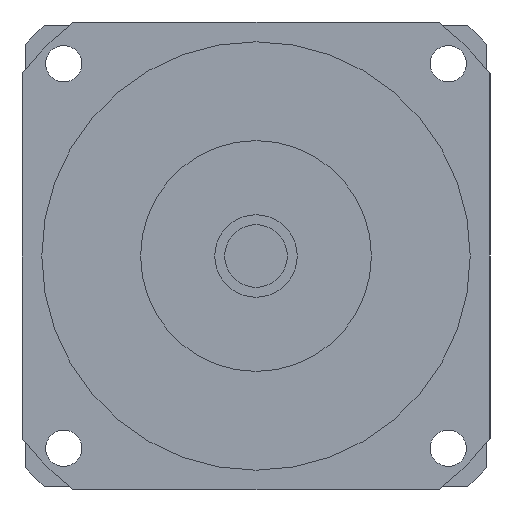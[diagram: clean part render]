
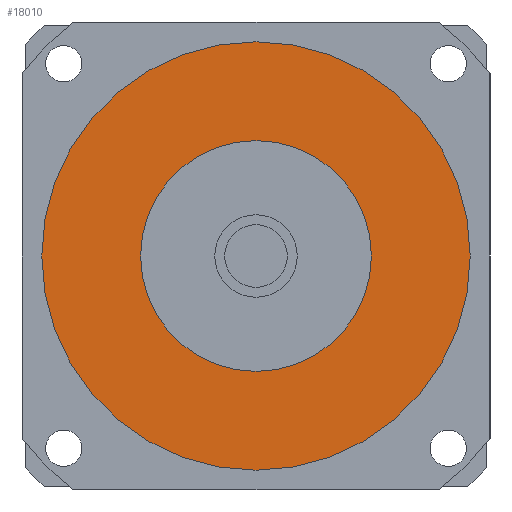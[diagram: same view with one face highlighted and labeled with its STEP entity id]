
A CAD part, left-side view. The second image highlights one B-rep face of the part: STEP entity #18010.
In plain terms, the highlighted planar face has unit normal (-1, 0, 0) as drawn and (0, 0, -1) by its records, which use the part's own axes.
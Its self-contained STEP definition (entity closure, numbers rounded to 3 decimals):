
#17430=CARTESIAN_POINT('',(65.,0.,-55.2));
#17440=VERTEX_POINT('',#17430);
#17530=CARTESIAN_POINT('',(-65.,0.,-55.2));
#17540=VERTEX_POINT('',#17530);
#17570=CARTESIAN_POINT('',(0.,0.,
-55.2));
#17580=DIRECTION('',(0.,0.,1.));
#17590=DIRECTION('',(0.,1.,0.));
#17600=AXIS2_PLACEMENT_3D('',#17570,#17580,#17590);
#17610=CIRCLE('',#17600,65.);
#17620=CARTESIAN_POINT('',(0.,65.,-55.2));
#17630=VERTEX_POINT('',#17620);
#17640=EDGE_CURVE('',#17630,#17540,#17610,.T.);
#17660=EDGE_CURVE('',#17440,#17630,#17610,.T.);
#17710=CARTESIAN_POINT('',(0.,0.,
-55.2));
#17720=DIRECTION('',(0.,0.,1.));
#17730=DIRECTION('',(-1.,0.,0.));
#17740=AXIS2_PLACEMENT_3D('',#17710,#17720,#17730);
#17750=PLANE('',#17740);
#17760=CARTESIAN_POINT('',(0.,0.,
-55.2));
#17770=DIRECTION('',(0.,0.,1.));
#17780=DIRECTION('',(0.,1.,0.));
#17790=AXIS2_PLACEMENT_3D('',#17760,#17770,#17780);
#17800=CIRCLE('',#17790,35.);
#17810=CARTESIAN_POINT('',(-35.,0.,-55.2));
#17820=VERTEX_POINT('',#17810);
#17830=CARTESIAN_POINT('',(35.,0.,-55.2));
#17840=VERTEX_POINT('',#17830);
#17850=EDGE_CURVE('',#17820,#17840,#17800,.T.);
#17860=ORIENTED_EDGE('',*,*,#17850,.T.);
#17870=CARTESIAN_POINT('',(0.,35.,-55.2));
#17880=VERTEX_POINT('',#17870);
#17890=EDGE_CURVE('',#17880,#17820,#17800,.T.);
#17900=ORIENTED_EDGE('',*,*,#17890,.T.);
#17910=EDGE_CURVE('',#17840,#17880,#17800,.T.);
#17920=ORIENTED_EDGE('',*,*,#17910,.T.);
#17930=EDGE_LOOP('',(#17920,#17900,#17860));
#17940=FACE_BOUND('',#17930,.T.);
#17950=ORIENTED_EDGE('',*,*,#17640,.F.);
#17960=EDGE_CURVE('',#17540,#17440,#17610,.T.);
#17970=ORIENTED_EDGE('',*,*,#17960,.F.);
#17980=ORIENTED_EDGE('',*,*,#17660,.F.);
#17990=EDGE_LOOP('',(#17980,#17970,#17950));
#18000=FACE_OUTER_BOUND('',#17990,.T.);
#18010=ADVANCED_FACE('',(#17940,#18000),#17750,.F.);
